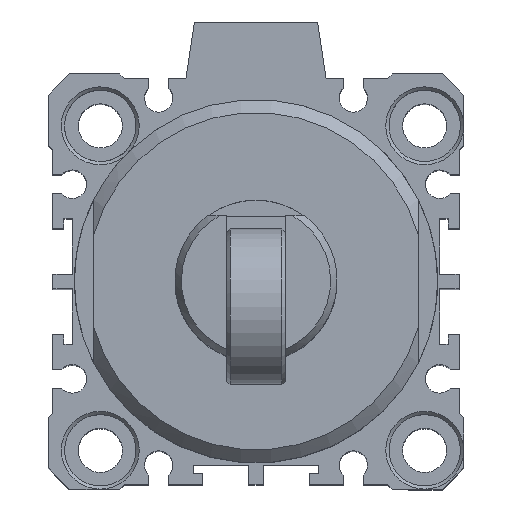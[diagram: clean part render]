
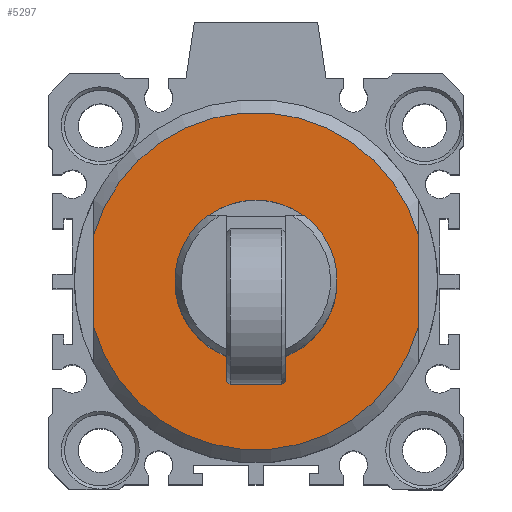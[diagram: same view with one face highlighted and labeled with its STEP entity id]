
A CAD part, top view. The second image highlights one B-rep face of the part: STEP entity #5297.
In plain terms, the highlighted planar face has unit normal (0, 0, 1).
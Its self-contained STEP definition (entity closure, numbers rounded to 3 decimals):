
#366=CARTESIAN_POINT('',(-14.557,11.794,102.));
#367=VERTEX_POINT('',#366);
#374=CARTESIAN_POINT('',(0.443,11.794,102.));
#375=VERTEX_POINT('',#374);
#376=CARTESIAN_POINT('',(-7.057,1.794,102.));
#377=DIRECTION('',(0.0,0.0,-1.0));
#378=DIRECTION('',(0.0,1.0,0.0));
#379=AXIS2_PLACEMENT_3D('',#376,#377,#378);
#380=CIRCLE('',#379,12.5);
#381=EDGE_CURVE('',#375,#367,#380,.T.);
#5246=CARTESIAN_POINT('',(-7.057,22.044,102.));
#5247=DIRECTION('',(0.0,0.0,1.0));
#5248=DIRECTION('',(1.0,0.0,0.0));
#5249=AXIS2_PLACEMENT_3D('',#5246,#5247,#5248);
#5250=PLANE('',#5249);
#5251=CARTESIAN_POINT('',(-32.057,8.936,102.));
#5252=VERTEX_POINT('',#5251);
#5253=CARTESIAN_POINT('',(17.943,8.936,102.));
#5254=VERTEX_POINT('',#5253);
#5255=CARTESIAN_POINT('',(-7.057,1.794,102.));
#5256=DIRECTION('',(0.0,0.0,-1.0));
#5257=DIRECTION('',(0.0,1.0,0.0));
#5258=AXIS2_PLACEMENT_3D('',#5255,#5256,#5257);
#5259=CIRCLE('',#5258,26.0);
#5260=EDGE_CURVE('',#5252,#5254,#5259,.T.);
#5261=ORIENTED_EDGE('',*,*,#5260,.F.);
#5262=CARTESIAN_POINT('',(-32.057,-5.347,102.));
#5263=VERTEX_POINT('',#5262);
#5264=CARTESIAN_POINT('',(-32.057,8.936,102.));
#5265=DIRECTION('',(0.0,-1.0,0.0));
#5266=VECTOR('',#5265,14.283);
#5267=LINE('',#5264,#5266);
#5268=EDGE_CURVE('',#5252,#5263,#5267,.T.);
#5269=ORIENTED_EDGE('',*,*,#5268,.T.);
#5270=CARTESIAN_POINT('',(17.943,-5.347,102.));
#5271=VERTEX_POINT('',#5270);
#5272=CARTESIAN_POINT('',(-7.057,1.794,102.));
#5273=DIRECTION('',(0.0,0.0,-1.0));
#5274=DIRECTION('',(0.0,-1.0,0.0));
#5275=AXIS2_PLACEMENT_3D('',#5272,#5273,#5274);
#5276=CIRCLE('',#5275,26.0);
#5277=EDGE_CURVE('',#5271,#5263,#5276,.T.);
#5278=ORIENTED_EDGE('',*,*,#5277,.F.);
#5279=CARTESIAN_POINT('',(17.943,-5.347,102.));
#5280=DIRECTION('',(0.0,1.0,0.0));
#5281=VECTOR('',#5280,14.283);
#5282=LINE('',#5279,#5281);
#5283=EDGE_CURVE('',#5271,#5254,#5282,.T.);
#5284=ORIENTED_EDGE('',*,*,#5283,.T.);
#5285=EDGE_LOOP('',(#5261,#5269,#5278,#5284));
#5286=FACE_OUTER_BOUND('',#5285,.T.);
#5287=CARTESIAN_POINT('',(-7.057,1.794,102.));
#5288=DIRECTION('',(0.0,0.0,-1.0));
#5289=DIRECTION('',(0.0,1.0,0.0));
#5290=AXIS2_PLACEMENT_3D('',#5287,#5288,#5289);
#5291=CIRCLE('',#5290,12.5);
#5292=EDGE_CURVE('',#367,#375,#5291,.T.);
#5293=ORIENTED_EDGE('',*,*,#5292,.T.);
#5294=ORIENTED_EDGE('',*,*,#381,.T.);
#5295=EDGE_LOOP('',(#5293,#5294));
#5296=FACE_BOUND('',#5295,.T.);
#5297=ADVANCED_FACE('',(#5286,#5296),#5250,.T.);
